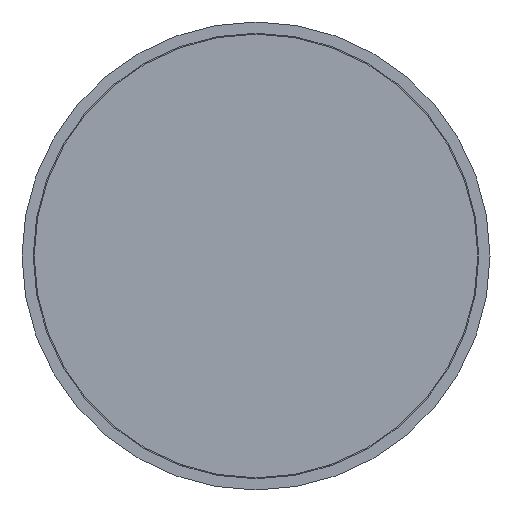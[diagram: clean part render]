
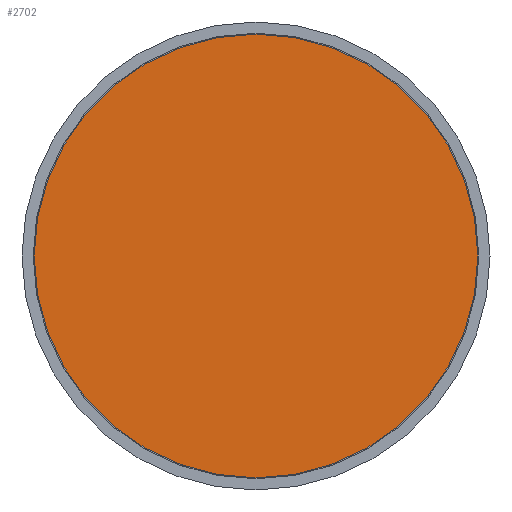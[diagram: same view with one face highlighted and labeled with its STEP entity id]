
A CAD part, top view. The second image highlights one B-rep face of the part: STEP entity #2702.
In plain terms, the highlighted planar face has unit normal (0, 0, 1).
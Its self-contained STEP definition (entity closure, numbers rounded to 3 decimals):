
#200=PLANE('',#2951);
#405=FACE_OUTER_BOUND('',#596,.T.);
#596=EDGE_LOOP('',(#2415));
#1133=CIRCLE('',#2948,237.);
#1370=VERTEX_POINT('',#5382);
#1727=EDGE_CURVE('',#1370,#1370,#1133,.T.);
#2415=ORIENTED_EDGE('',*,*,#1727,.F.);
#2702=ADVANCED_FACE('',(#405),#200,.T.);
#2948=AXIS2_PLACEMENT_3D('',#5383,#3581,#3582);
#2951=AXIS2_PLACEMENT_3D('',#5387,#3587,#3588);
#3581=DIRECTION('center_axis',(0.,0.,
-1.));
#3582=DIRECTION('ref_axis',(-1.,0.,0.));
#3587=DIRECTION('center_axis',(0.,0.,
1.));
#3588=DIRECTION('ref_axis',(1.,0.,0.));
#5382=CARTESIAN_POINT('',(898.679,-884.381,562.244));
#5383=CARTESIAN_POINT('Origin',(661.679,-884.381,562.244));
#5387=CARTESIAN_POINT('Origin',(661.679,-884.381,562.244));
